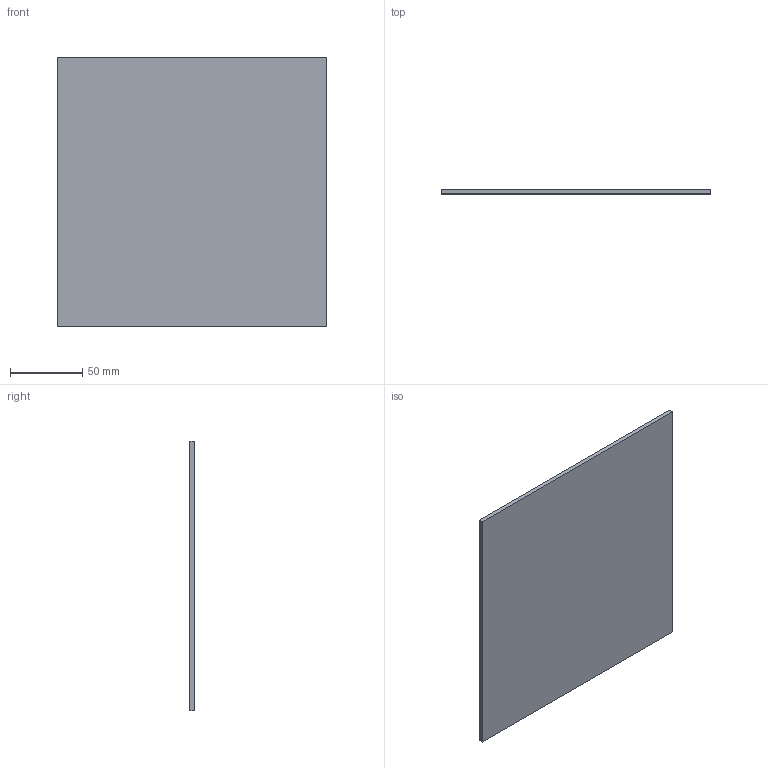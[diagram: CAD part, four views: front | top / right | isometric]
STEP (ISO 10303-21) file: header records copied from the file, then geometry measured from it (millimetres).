
FILE_DESCRIPTION(('Open CASCADE Model'),'2;1');
FILE_NAME('Open CASCADE Shape Model','2026-10-16T19:20:08',('Author'),( 'Open CASCADE'),'Open CASCADE STEP processor 7.8','Open CASCADE 7.8' ,'Unknown');
FILE_SCHEMA(('AUTOMOTIVE_DESIGN { 1 0 10303 214 1 1 1 1 }'));
Length unit declared in the file: millimetre
Products named in the file (1): Open CASCADE STEP translator 7.8 16
Bounding box: 186 x 3 x 186 mm (x, y, z)
Volume: 103788 mm3; surface area: 71424 mm2
Topology: 1 solids, 1 shells, 6 faces, 12 edges, 8 vertices
Faces by surface type: plane 6
Entity records: 322 total; most frequent: CARTESIAN_POINT 51, DIRECTION 50, LINE 36, VECTOR 36, ORIENTED_EDGE 24, PCURVE 24, DEFINITIONAL_REPRESENTATION 24, EDGE_CURVE 12
